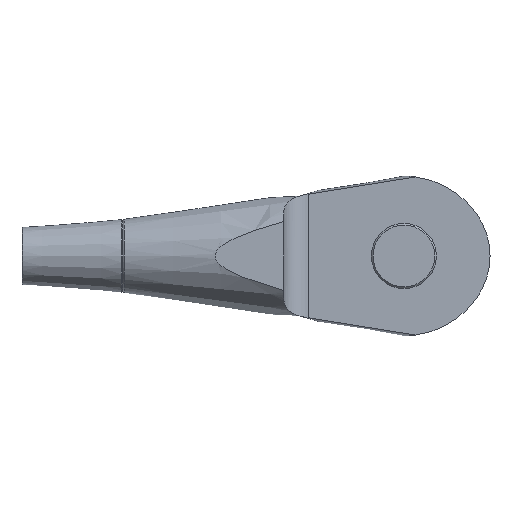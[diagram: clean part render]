
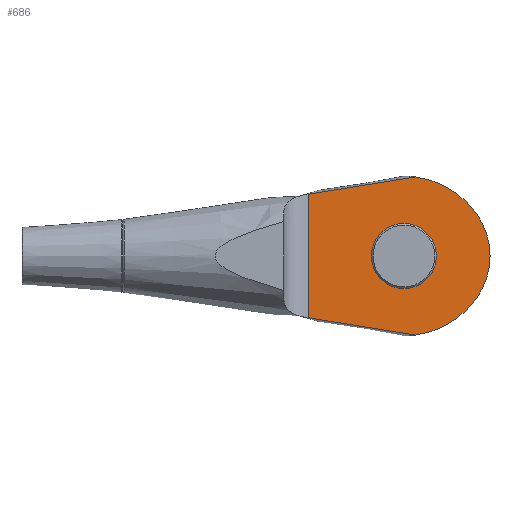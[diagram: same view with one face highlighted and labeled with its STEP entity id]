
A CAD part, front view. The second image highlights one B-rep face of the part: STEP entity #686.
In plain terms, the highlighted planar face has unit normal (0, -1, 0).
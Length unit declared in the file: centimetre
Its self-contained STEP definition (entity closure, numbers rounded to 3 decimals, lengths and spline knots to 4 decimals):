
#20=LINE('',#1213,#40);
#40=VECTOR('',#890,7.6091);
#65=(
BOUNDED_CURVE()
B_SPLINE_CURVE(2,(#1058,#1059,#1060),.UNSPECIFIED.,.F.,.F.)
B_SPLINE_CURVE_WITH_KNOTS((3,3),(0.,7.2183),.UNSPECIFIED.)
CURVE()
GEOMETRIC_REPRESENTATION_ITEM()
RATIONAL_B_SPLINE_CURVE((1.,1.011,1.008))
REPRESENTATION_ITEM('')
);
#69=(
BOUNDED_CURVE()
B_SPLINE_CURVE(2,(#1168,#1169,#1170),.UNSPECIFIED.,.F.,.F.)
B_SPLINE_CURVE_WITH_KNOTS((3,3),(4.1232,11.3415),
 .UNSPECIFIED.)
CURVE()
GEOMETRIC_REPRESENTATION_ITEM()
RATIONAL_B_SPLINE_CURVE((1.008,1.011,1.))
REPRESENTATION_ITEM('')
);
#96=PLANE('',#759);
#122=FACE_BOUND('',#216,.T.);
#157=FACE_OUTER_BOUND('',#215,.T.);
#215=EDGE_LOOP('',(#504,#505,#506,#507,#508,#509));
#216=EDGE_LOOP('',(#510));
#281=CIRCLE('',#748,1.65);
#283=CIRCLE('',#751,5.4817);
#285=CIRCLE('',#754,5.4817);
#287=CIRCLE('',#757,4.5);
#319=VERTEX_POINT('',#1042);
#320=VERTEX_POINT('',#1057);
#331=VERTEX_POINT('',#1152);
#332=VERTEX_POINT('',#1167);
#334=VERTEX_POINT('',#1193);
#336=VERTEX_POINT('',#1198);
#338=VERTEX_POINT('',#1204);
#382=EDGE_CURVE('',#319,#320,#65,.T.);
#394=EDGE_CURVE('',#331,#332,#69,.T.);
#399=EDGE_CURVE('',#334,#334,#281,.T.);
#401=EDGE_CURVE('',#331,#336,#283,.T.);
#404=EDGE_CURVE('',#338,#320,#285,.T.);
#407=EDGE_CURVE('',#336,#338,#287,.T.);
#409=EDGE_CURVE('',#319,#332,#20,.T.);
#504=ORIENTED_EDGE('',*,*,#401,.T.);
#505=ORIENTED_EDGE('',*,*,#407,.T.);
#506=ORIENTED_EDGE('',*,*,#404,.T.);
#507=ORIENTED_EDGE('',*,*,#382,.F.);
#508=ORIENTED_EDGE('',*,*,#409,.T.);
#509=ORIENTED_EDGE('',*,*,#394,.F.);
#510=ORIENTED_EDGE('',*,*,#399,.T.);
#686=ADVANCED_FACE('',(#157,#122),#96,.F.);
#748=AXIS2_PLACEMENT_3D('',#1194,#864,#865);
#751=AXIS2_PLACEMENT_3D('',#1199,#870,#871);
#754=AXIS2_PLACEMENT_3D('',#1205,#877,#878);
#757=AXIS2_PLACEMENT_3D('',#1210,#884,#885);
#759=AXIS2_PLACEMENT_3D('',#1212,#888,#889);
#864=DIRECTION('center_axis',(0.,1.,0.));
#865=DIRECTION('ref_axis',(-1.,0.,0.));
#870=DIRECTION('center_axis',(0.,-1.,0.));
#871=DIRECTION('ref_axis',(0.,0.,
1.));
#877=DIRECTION('center_axis',(0.,-1.,0.));
#878=DIRECTION('ref_axis',(-0.815,0.,-0.58));
#884=DIRECTION('center_axis',(0.,-1.,0.));
#885=DIRECTION('ref_axis',(-0.815,0.,0.58));
#888=DIRECTION('center_axis',(0.,1.,0.));
#889=DIRECTION('ref_axis',(-1.,0.,0.));
#890=DIRECTION('',(0.,0.,-1.));
#1042=CARTESIAN_POINT('',(-5.9,-1.25,3.8045));
#1057=CARTESIAN_POINT('',(0.7189,-1.25,4.8654));
#1058=CARTESIAN_POINT('Ctrl Pts',(-5.9,-1.25,3.8045));
#1059=CARTESIAN_POINT('Ctrl Pts',(-2.9955,-1.25,4.2751));
#1060=CARTESIAN_POINT('Ctrl Pts',(0.7189,-1.25,4.8654));
#1152=CARTESIAN_POINT('',(0.7189,-1.25,-4.8654));
#1167=CARTESIAN_POINT('',(-5.9,-1.25,-3.8045));
#1168=CARTESIAN_POINT('Ctrl Pts',(0.7189,-1.25,-4.8654));
#1169=CARTESIAN_POINT('Ctrl Pts',(-2.9955,-1.25,-4.2751));
#1170=CARTESIAN_POINT('Ctrl Pts',(-5.9,-1.25,-3.8045));
#1193=CARTESIAN_POINT('',(1.65,-1.25,0.));
#1194=CARTESIAN_POINT('Origin',(0.,-1.25,0.));
#1198=CARTESIAN_POINT('',(4.4671,-1.25,-2.6081));
#1199=CARTESIAN_POINT('Origin',(0.,-1.25,0.569));
#1204=CARTESIAN_POINT('',(4.4671,-1.25,2.6081));
#1205=CARTESIAN_POINT('Origin',(0.,-1.25,-0.569));
#1210=CARTESIAN_POINT('Origin',(0.8,-1.25,0.));
#1212=CARTESIAN_POINT('Origin',(5.3,-1.25,0.));
#1213=CARTESIAN_POINT('',(-5.9,-1.25,0.));
